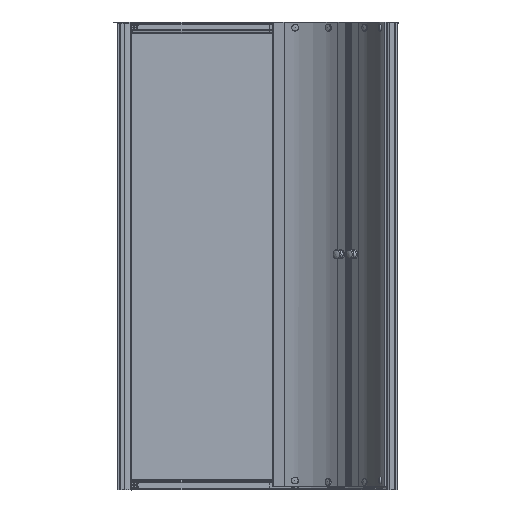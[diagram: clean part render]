
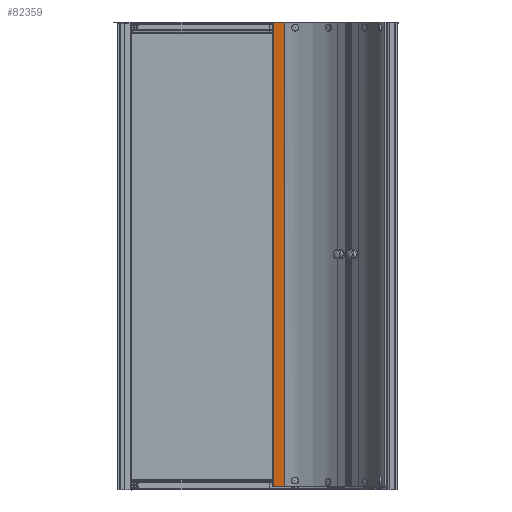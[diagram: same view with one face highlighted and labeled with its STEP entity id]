
A CAD part, left-side view. The second image highlights one B-rep face of the part: STEP entity #82359.
In plain terms, the highlighted planar face has unit normal (-0.989, 0.146, 0).
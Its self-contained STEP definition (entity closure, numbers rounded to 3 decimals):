
#2196=LINE($,#126405,#8684);
#2662=LINE($,#134588,#9150);
#2663=LINE($,#134589,#9151);
#2664=LINE($,#134590,#9152);
#8684=VECTOR($,#97660,1985.);
#9150=VECTOR($,#100092,1985.);
#9151=VECTOR($,#100093,45.052);
#9152=VECTOR($,#100094,45.052);
#16803=PLANE($,#88409);
#20758=FACE_OUTER_BOUND($,#25777,.T.);
#25777=EDGE_LOOP($,(#58407,#58408,#58409,#58410));
#33853=VERTEX_POINT($,#126402);
#33854=VERTEX_POINT($,#126404);
#34663=VERTEX_POINT($,#134586);
#34664=VERTEX_POINT($,#134587);
#42191=EDGE_CURVE($,#33854,#33853,#2196,.T.);
#43403=EDGE_CURVE($,#34663,#34664,#2662,.T.);
#43404=EDGE_CURVE($,#34663,#33854,#2663,.T.);
#43405=EDGE_CURVE($,#34664,#33853,#2664,.T.);
#58407=ORIENTED_EDGE($,*,*,#43403,.F.);
#58408=ORIENTED_EDGE($,*,*,#43404,.T.);
#58409=ORIENTED_EDGE($,*,*,#42191,.T.);
#58410=ORIENTED_EDGE($,*,*,#43405,.F.);
#82359=ADVANCED_FACE($,(#20758),#16803,.T.);
#88409=AXIS2_PLACEMENT_3D($,#134585,#100090,#100091);
#97660=DIRECTION($,(0.,0.,1.));
#100090=DIRECTION('center_axis',(-0.989,0.146,0.));
#100091=DIRECTION('ref_axis',(-0.146,-0.989,0.));
#100092=DIRECTION($,(0.,0.,1.));
#100093=DIRECTION($,(-0.146,-0.989,0.));
#100094=DIRECTION($,(-0.146,-0.989,0.));
#126402=CARTESIAN_POINT('',(709.512,192.433,2010.5));
#126404=CARTESIAN_POINT('',(709.512,192.433,25.5));
#126405=CARTESIAN_POINT($,(709.512,192.433,25.5));
#134585=CARTESIAN_POINT('Origin',(716.81,241.95,25.5));
#134586=CARTESIAN_POINT('',(716.081,237.003,25.5));
#134587=CARTESIAN_POINT('',(716.081,237.003,2010.5));
#134588=CARTESIAN_POINT($,(716.081,237.003,25.5));
#134589=CARTESIAN_POINT($,(716.81,241.95,25.5));
#134590=CARTESIAN_POINT($,(716.81,241.95,2010.5));
